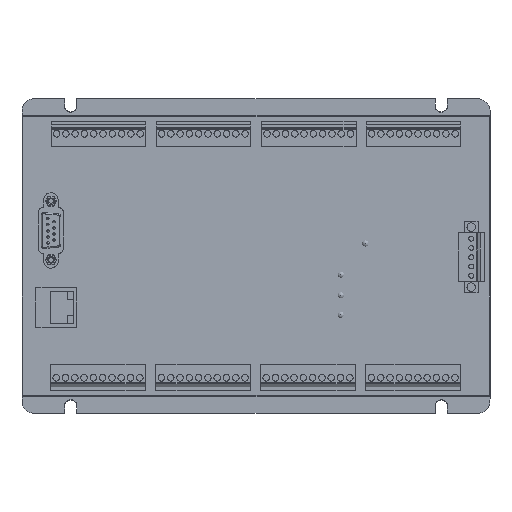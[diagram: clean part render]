
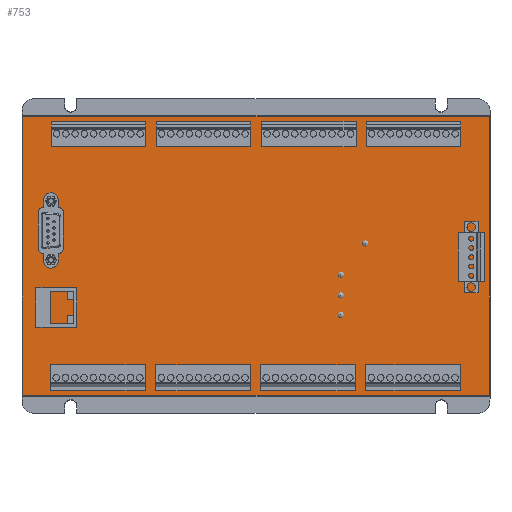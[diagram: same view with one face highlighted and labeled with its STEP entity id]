
A CAD part, top view. The second image highlights one B-rep face of the part: STEP entity #753.
In plain terms, the highlighted planar face has unit normal (0, 0, 1).
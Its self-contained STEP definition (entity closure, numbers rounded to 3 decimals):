
#753=ADVANCED_FACE('',(#1548),#1237,.F.);
#1237=PLANE('',#7592);
#1548=FACE_OUTER_BOUND('',#1917,.T.);
#1917=EDGE_LOOP('',(#3050,#3051,#3052,#3053));
#3050=ORIENTED_EDGE('',*,*,#5516,.T.);
#3051=ORIENTED_EDGE('',*,*,#5517,.T.);
#3052=ORIENTED_EDGE('',*,*,#5518,.T.);
#3053=ORIENTED_EDGE('',*,*,#5519,.T.);
#4834=VERTEX_POINT('',#10950);
#4835=VERTEX_POINT('',#10951);
#4836=VERTEX_POINT('',#10953);
#4837=VERTEX_POINT('',#10955);
#5516=EDGE_CURVE('',#4834,#4835,#6410,.T.);
#5517=EDGE_CURVE('',#4835,#4836,#6411,.T.);
#5518=EDGE_CURVE('',#4836,#4837,#6412,.T.);
#5519=EDGE_CURVE('',#4837,#4834,#6413,.T.);
#6410=LINE('',#10949,#7002);
#6411=LINE('',#10952,#7003);
#6412=LINE('',#10954,#7004);
#6413=LINE('',#10956,#7005);
#7002=VECTOR('',#8419,1.);
#7003=VECTOR('',#8420,1.);
#7004=VECTOR('',#8421,1.);
#7005=VECTOR('',#8422,1.);
#7592=AXIS2_PLACEMENT_3D('',#10957,#8423,#8424);
#8419=DIRECTION('',(1.,0.,0.));
#8420=DIRECTION('',(0.,1.,0.));
#8421=DIRECTION('',(-1.,0.,0.));
#8422=DIRECTION('',(0.,-1.,0.));
#8423=DIRECTION('',(0.,0.,-1.));
#8424=DIRECTION('',(-1.,0.,0.));
#10949=CARTESIAN_POINT('',(1156.639,300.303,0.1));
#10950=CARTESIAN_POINT('',(1060.939,300.303,0.1));
#10951=CARTESIAN_POINT('',(1252.339,300.303,0.1));
#10952=CARTESIAN_POINT('',(1252.339,415.007,0.1));
#10953=CARTESIAN_POINT('',(1252.339,414.707,0.1));
#10954=CARTESIAN_POINT('',(1156.639,414.707,0.1));
#10955=CARTESIAN_POINT('',(1060.939,414.707,0.1));
#10956=CARTESIAN_POINT('',(1060.939,415.007,0.1));
#10957=CARTESIAN_POINT('',(1156.639,415.007,0.1));
